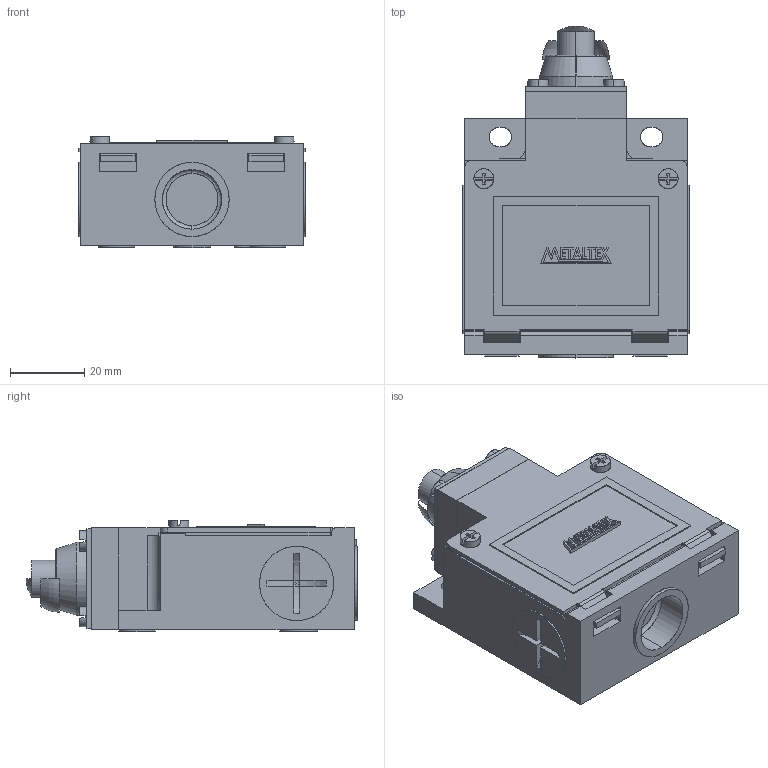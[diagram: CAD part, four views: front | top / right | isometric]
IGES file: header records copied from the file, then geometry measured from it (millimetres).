
Start section: SolidWorks IGES file using analytic representation for surfaces
Global section: file name: D:\X - Arquivos\PROEX\Empresas\P11 - METALTEX\01 - Produtos\IGES\Terceira remessa\TZE10.IGS; native system: SolidWorks 2012; preprocessor: SolidWorks 2012; author: Usuario; date: 180207.114058; units: millimetre
Bounding box: 61 x 89.4 x 30 mm (x, y, z)
Surface area: 19118.7 mm2 (no closed solid volume)
Topology: 0 solids, 0 shells, 392 faces, 3390 edges, 3389 vertices
Faces by surface type: bspline 317, revolution 75
